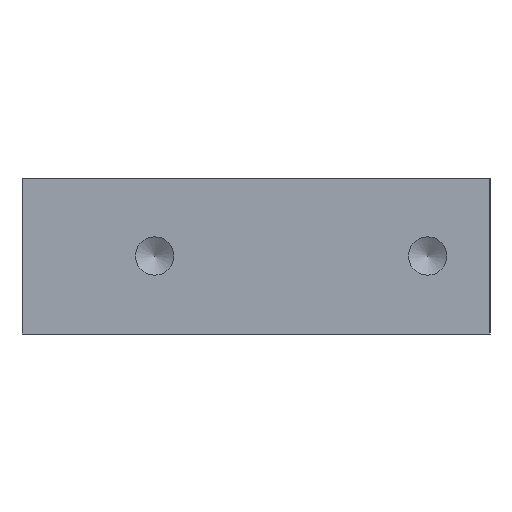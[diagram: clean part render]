
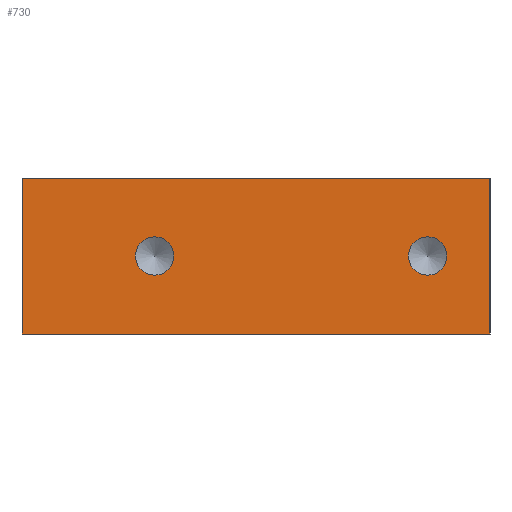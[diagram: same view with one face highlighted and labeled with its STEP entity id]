
A CAD part, left-side view. The second image highlights one B-rep face of the part: STEP entity #730.
In plain terms, the highlighted planar face has unit normal (-1, 0, 0).
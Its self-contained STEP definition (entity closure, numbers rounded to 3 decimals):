
#22=FACE_BOUND('',#131,.T.);
#23=FACE_BOUND('',#132,.T.);
#40=PLANE('',#825);
#87=FACE_OUTER_BOUND('',#130,.T.);
#130=EDGE_LOOP('',(#661,#662,#663,#664));
#131=EDGE_LOOP('',(#665,#666));
#132=EDGE_LOOP('',(#667,#668));
#152=LINE('',#1159,#216);
#167=LINE('',#1193,#231);
#197=LINE('',#1256,#261);
#198=LINE('',#1258,#262);
#216=VECTOR('',#952,10.);
#231=VECTOR('',#973,10.);
#261=VECTOR('',#1037,10.);
#262=VECTOR('',#1040,10.);
#273=CIRCLE('',#768,2.459);
#274=CIRCLE('',#769,2.459);
#277=CIRCLE('',#774,2.459);
#278=CIRCLE('',#775,2.459);
#315=VERTEX_POINT('',#1078);
#316=VERTEX_POINT('',#1079);
#320=VERTEX_POINT('',#1091);
#321=VERTEX_POINT('',#1092);
#345=VERTEX_POINT('',#1157);
#346=VERTEX_POINT('',#1158);
#362=VERTEX_POINT('',#1192);
#378=VERTEX_POINT('',#1254);
#394=EDGE_CURVE('',#315,#316,#273,.T.);
#395=EDGE_CURVE('',#316,#315,#274,.T.);
#400=EDGE_CURVE('',#320,#321,#277,.T.);
#401=EDGE_CURVE('',#321,#320,#278,.T.);
#431=EDGE_CURVE('',#345,#346,#152,.T.);
#448=EDGE_CURVE('',#362,#346,#167,.T.);
#480=EDGE_CURVE('',#345,#378,#197,.T.);
#481=EDGE_CURVE('',#362,#378,#198,.T.);
#661=ORIENTED_EDGE('',*,*,#480,.T.);
#662=ORIENTED_EDGE('',*,*,#481,.F.);
#663=ORIENTED_EDGE('',*,*,#448,.T.);
#664=ORIENTED_EDGE('',*,*,#431,.F.);
#665=ORIENTED_EDGE('',*,*,#394,.T.);
#666=ORIENTED_EDGE('',*,*,#395,.T.);
#667=ORIENTED_EDGE('',*,*,#400,.T.);
#668=ORIENTED_EDGE('',*,*,#401,.T.);
#730=ADVANCED_FACE('',(#87,#22,#23),#40,.T.);
#768=AXIS2_PLACEMENT_3D('',#1080,#866,#867);
#769=AXIS2_PLACEMENT_3D('',#1081,#868,#869);
#774=AXIS2_PLACEMENT_3D('',#1093,#880,#881);
#775=AXIS2_PLACEMENT_3D('',#1094,#882,#883);
#825=AXIS2_PLACEMENT_3D('',#1257,#1038,#1039);
#866=DIRECTION('center_axis',(1.,0.,0.));
#867=DIRECTION('ref_axis',(0.,0.,1.));
#868=DIRECTION('center_axis',(1.,0.,0.));
#869=DIRECTION('ref_axis',(0.,0.,1.));
#880=DIRECTION('center_axis',(1.,0.,0.));
#881=DIRECTION('ref_axis',(0.,0.,1.));
#882=DIRECTION('center_axis',(1.,0.,0.));
#883=DIRECTION('ref_axis',(0.,0.,1.));
#952=DIRECTION('',(0.,1.,0.));
#973=DIRECTION('',(0.,0.,-1.));
#1037=DIRECTION('',(0.,0.,1.));
#1038=DIRECTION('center_axis',(-1.,0.,0.));
#1039=DIRECTION('ref_axis',(0.,-1.,0.));
#1040=DIRECTION('',(0.,-1.,0.));
#1078=CARTESIAN_POINT('',(-28.5,-22.,2.459));
#1079=CARTESIAN_POINT('',(-28.5,-22.,-2.459));
#1080=CARTESIAN_POINT('Origin',(-28.5,-22.,0.));
#1081=CARTESIAN_POINT('Origin',(-28.5,-22.,0.));
#1091=CARTESIAN_POINT('',(-28.5,13.,2.459));
#1092=CARTESIAN_POINT('',(-28.5,13.,-2.459));
#1093=CARTESIAN_POINT('Origin',(-28.5,13.,0.));
#1094=CARTESIAN_POINT('Origin',(-28.5,13.,0.));
#1157=CARTESIAN_POINT('',(-28.5,-30.,-10.));
#1158=CARTESIAN_POINT('',(-28.5,30.,-10.));
#1159=CARTESIAN_POINT('',(-28.5,30.,-10.));
#1192=CARTESIAN_POINT('',(-28.5,30.,10.));
#1193=CARTESIAN_POINT('',(-28.5,30.,0.));
#1254=CARTESIAN_POINT('',(-28.5,-30.,10.));
#1256=CARTESIAN_POINT('',(-28.5,-30.,0.));
#1257=CARTESIAN_POINT('Origin',(-28.5,30.,0.));
#1258=CARTESIAN_POINT('',(-28.5,30.,10.));
